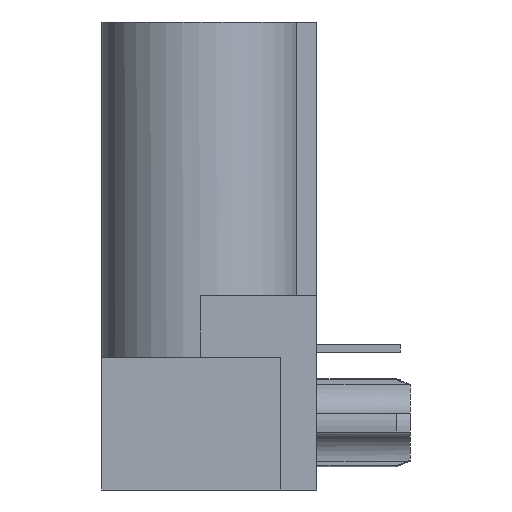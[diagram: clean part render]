
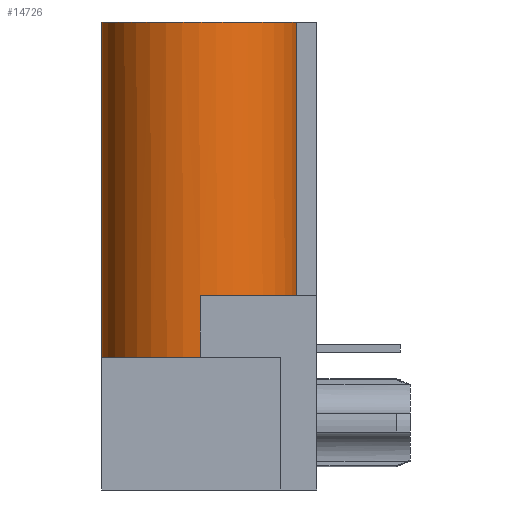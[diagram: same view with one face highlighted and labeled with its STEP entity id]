
A CAD part, left-side view. The second image highlights one B-rep face of the part: STEP entity #14726.
In plain terms, the highlighted cylindrical face has radius 3.43 mm (diameter 6.86 mm), a partial arc.
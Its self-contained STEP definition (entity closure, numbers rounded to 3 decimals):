
#2225=CARTESIAN_POINT('',(-30.4,-0.04,-1.39));
#2226=DIRECTION('',(0.,0.,-1.));
#2227=DIRECTION('',(-0.201,-0.98,0.));
#2228=AXIS2_PLACEMENT_3D('',#2225,#2226,#2227);
#2243=DIRECTION('',(0.,0.,1.));
#2244=VECTOR('',#2243,2.13);
#2245=CARTESIAN_POINT('',(-33.83,-0.04,-3.52));
#2246=LINE('',#2245,#2244);
#2263=DIRECTION('',(0.,0.,1.));
#2264=VECTOR('',#2263,11.67);
#2265=CARTESIAN_POINT('',(-30.4,3.39,-3.52));
#2266=LINE('',#2265,#2264);
#2267=DIRECTION('',(0.,0.,-1.));
#2268=VECTOR('',#2267,9.54);
#2269=CARTESIAN_POINT('',(-31.089,-3.4,8.15));
#2270=LINE('',#2269,#2268);
#2280=CARTESIAN_POINT('',(-30.4,-0.04,-3.52));
#2281=DIRECTION('',(0.,0.,1.));
#2282=DIRECTION('',(0.,1.,0.));
#2283=AXIS2_PLACEMENT_3D('',#2280,#2281,#2282);
#2419=CARTESIAN_POINT('',(-30.4,-0.04,8.15));
#2420=DIRECTION('',(0.,0.,-1.));
#2421=DIRECTION('',(-0.201,-0.98,0.));
#2422=AXIS2_PLACEMENT_3D('',#2419,#2420,#2421);
#9463=CARTESIAN_POINT('',(-31.089,-3.4,8.15));
#9464=CARTESIAN_POINT('',(-30.4,3.39,8.15));
#9465=VERTEX_POINT('',#9463);
#9466=VERTEX_POINT('',#9464);
#9473=CARTESIAN_POINT('',(-31.089,-3.4,-1.39));
#9474=VERTEX_POINT('',#9473);
#9487=CARTESIAN_POINT('',(-33.83,-0.04,-3.52));
#9488=CARTESIAN_POINT('',(-33.83,-0.04,-1.39));
#9489=VERTEX_POINT('',#9487);
#9490=VERTEX_POINT('',#9488);
#9501=CARTESIAN_POINT('',(-30.4,3.39,-3.52));
#9502=VERTEX_POINT('',#9501);
#14709=CARTESIAN_POINT('',(-30.4,-0.04,8.15));
#14710=DIRECTION('',(0.,0.,1.));
#14711=DIRECTION('',(1.,0.,0.));
#14712=AXIS2_PLACEMENT_3D('',#14709,#14710,#14711);
#14713=CYLINDRICAL_SURFACE('',#14712,3.43);
#14714=ORIENTED_EDGE('',*,*,#14668,.T.);
#14715=ORIENTED_EDGE('',*,*,#14696,.F.);
#14717=ORIENTED_EDGE('',*,*,#14716,.F.);
#14719=ORIENTED_EDGE('',*,*,#14718,.T.);
#14721=ORIENTED_EDGE('',*,*,#14720,.F.);
#14723=ORIENTED_EDGE('',*,*,#14722,.T.);
#14724=EDGE_LOOP('',(#14714,#14715,#14717,#14719,#14721,#14723));
#14725=FACE_OUTER_BOUND('',#14724,.F.);
#14726=ADVANCED_FACE('',(#14725),#14713,.T.);
#2229=CIRCLE('',#2228,3.43);
#2284=CIRCLE('',#2283,3.43);
#2423=CIRCLE('',#2422,3.43);
#14668=EDGE_CURVE('',#9474,#9490,#2229,.T.);
#14696=EDGE_CURVE('',#9489,#9490,#2246,.T.);
#14716=EDGE_CURVE('',#9502,#9489,#2284,.T.);
#14718=EDGE_CURVE('',#9502,#9466,#2266,.T.);
#14720=EDGE_CURVE('',#9465,#9466,#2423,.T.);
#14722=EDGE_CURVE('',#9465,#9474,#2270,.T.);
